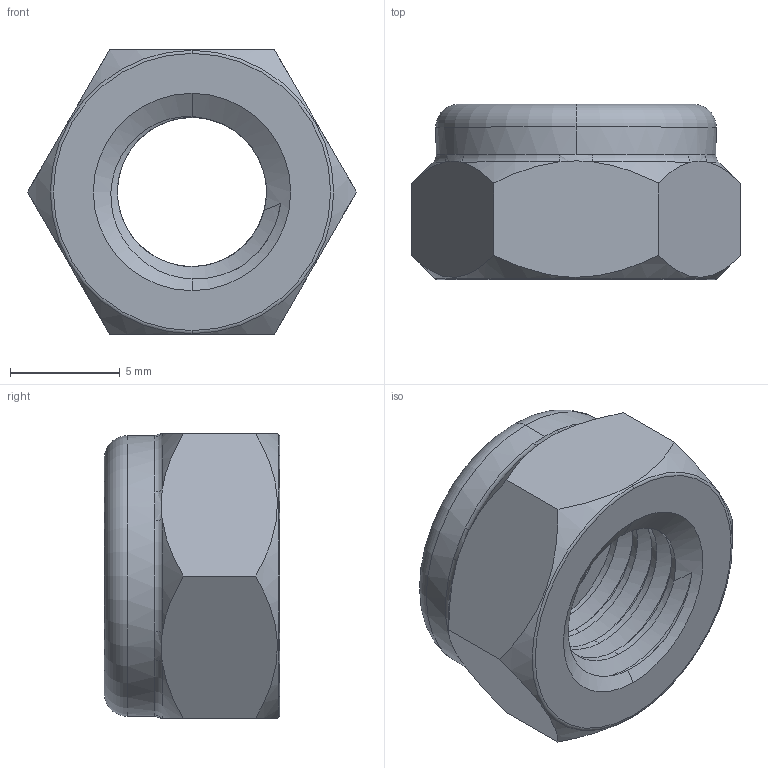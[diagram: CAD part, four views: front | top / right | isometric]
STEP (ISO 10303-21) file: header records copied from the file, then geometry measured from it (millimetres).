
FILE_DESCRIPTION (( 'STEP AP203' ), '1' );
FILE_NAME ('TANK-304-M8.STEP', '2026-08-24T14:50:53', ( '' ), ( '' ), 'SwSTEP 2.0', 'SolidWorks 2020', '' );
FILE_SCHEMA (( 'CONFIG_CONTROL_DESIGN' ));
Length unit declared in the file: millimetre
Products named in the file (1): TANK-304-M8
Bounding box: 15.01 x 8 x 13 mm (x, y, z)
Volume: 718.4 mm3; surface area: 1128.1 mm2
Topology: 2 solids, 2 shells, 63 faces, 153 edges, 94 vertices
Faces by surface type: cylinder 16, torus 14, cone 14, plane 10, bspline 9
Entity records: 3798 total; most frequent: CARTESIAN_POINT 2356, ORIENTED_EDGE 306, DIRECTION 265, EDGE_CURVE 153, AXIS2_PLACEMENT_3D 118, VERTEX_POINT 94, EDGE_LOOP 67, CIRCLE 63
